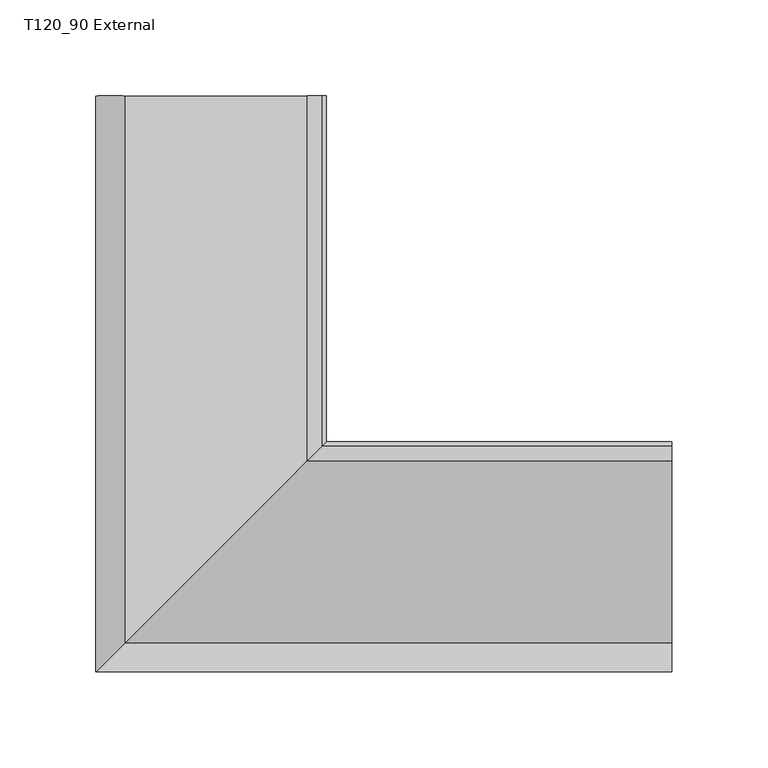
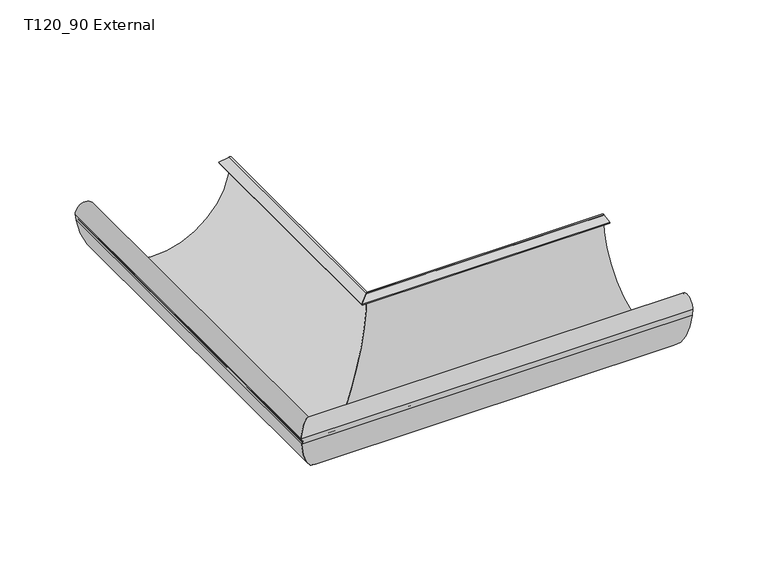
"""IFC4 building model written with IfcOpenShell, lengths in millimetres: proxy geometry, GROVIK_Gutter_Corner : T120_90 External."""

from ifc_helpers import new_model, si_unit, frame, origin, place, context, project, spatial, polyline, circle_curve, ellipse_curve, source, transform, mapped, element, save
from ifc_brep_helpers import plane_surface, cylinder_surface, revolved_surface, advanced_brep


def t120_90_external_180470e1(model_context):
    return source(origin(), model_context, "Body", "AdvancedBrep", [
        advanced_brep(
        [(0.0, 0.0, -1.8), (-2.2000746, -2.2000746, -0.0242687), (-9.9441961, -9.9441961, -1.4092855), (-9.7857475, -9.7857475, -2.295228), (-2.2975071, -2.2975071, -0.9559749), (-1.0040147, -1.0040147, -2.0579588), (-118.2672486, -118.2672486, -10.26861), (-119.0897552, -119.0897552, -5.3813466), (-116.9501607, -116.9501607, -9.9710741), (-117.4294315, -117.4294315, -8.9478528), (-117.995059, -117.995059, -5.4006666), (-118.8825779, -118.8825779, -5.5500325), (-118.3314375, -118.3314375, -9.0063664), (-117.5871118, -117.5871118, -10.6080252), (-119.995059, -119.995059, -5.2006666), (-119.2549128, -119.2549128, -10.4251966), (-119.2549128, 180.0, -10.4251966), (-119.995059, 180.0, -5.2006666), (-117.5871118, 180.0, -10.6080252), (-118.3314375, 180.0, -9.0063664), (-118.8825779, 180.0, -5.5500325), (-117.995059, 180.0, -5.4006666), (-117.4294315, 180.0, -8.9478528), (-116.9501607, 180.0, -9.9710741), (-119.0897552, 180.0, -5.3813466), (-118.2672486, 180.0, -10.26861), (-1.0040147, 180.0, -2.0579588), (-2.2975071, 180.0, -0.9559749), (-9.7857475, 180.0, -2.295228), (-9.9441961, 180.0, -1.4092855), (-2.2000746, 180.0, -0.0242687), (0.0, 180.0, -1.8)],
        [
            (0, 1, ellipse_curve(frame((-1.8973666, -1.8973666, -1.9), z_axis=(0.707106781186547, -0.7071067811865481, 0.0), x_axis=(0.7071067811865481, 0.7071067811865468, 0.0)), 2.6870058, 1.9)),
            (1, 2),
            (2, 3),
            (3, 4),
            (4, 5, ellipse_curve(frame((-2.1038477, -2.1038477, -2.0387934), z_axis=(-0.707106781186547, 0.7071067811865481, 0.0), x_axis=(-0.7071067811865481, -0.7071067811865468, 0.0)), 1.5556349, 1.1)),
            (5, 6, ellipse_curve(frame((-59.995059, -59.995059, -1.03), z_axis=(-0.707106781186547, 0.7071067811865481, 0.0), x_axis=(-0.7071067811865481, -0.7071067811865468, 0.0)), 83.4386002, 59.0)),
            (6, 7),
            (7, 8, ellipse_curve(frame((-112.495059, -112.495059, -5.1006666), z_axis=(-0.707106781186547, 0.7071067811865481, 0.0), x_axis=(-0.7071067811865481, -0.7071067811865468, 0.0)), 9.3347523, 6.6006666)),
            (8, 9, ellipse_curve(frame((-115.4100665, -115.4100665, -8.6258487), z_axis=(-0.707106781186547, 0.7071067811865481, 0.0), x_axis=(-0.7071067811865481, -0.7071067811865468, 0.0)), 2.8918925, 2.0448768)),
            (9, 10),
            (10, 11),
            (11, 12),
            (12, 13, ellipse_curve(frame((-115.141469, -115.141469, -8.4977001), z_axis=(0.707106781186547, -0.7071067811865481, 0.0), x_axis=(0.7071067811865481, 0.7071067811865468, 0.0)), 4.5682907, 3.2302694)),
            (13, 14, ellipse_curve(frame((-112.495059, -112.495059, -5.1006666), z_axis=(0.707106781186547, -0.7071067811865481, 0.0), x_axis=(0.7071067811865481, 0.7071067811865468, 0.0)), 10.6075445, 7.5006666)),
            (14, 15),
            (15, 0, ellipse_curve(frame((-59.995059, -59.995059, -1.03), z_axis=(0.707106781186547, -0.7071067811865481, 0.0), x_axis=(0.7071067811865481, 0.7071067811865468, 0.0)), 84.8528137, 60.0)),
            (16, 17),
            (17, 18, circle_curve(frame((-112.495059, 180.0, -5.1006666), z_axis=(0.0, 1.0, 0.0), x_axis=(-1.0, 0.0, 0.0)), 7.5006666)),
            (18, 19, circle_curve(frame((-115.141469, 180.0, -8.4977001), z_axis=(0.0, 1.0, 0.0), x_axis=(-1.0, 0.0, 0.0)), 3.2302694)),
            (19, 20),
            (20, 21),
            (21, 22),
            (22, 23, circle_curve(frame((-115.4100665, 180.0, -8.6258487), z_axis=(0.0, -1.0, 0.0), x_axis=(-1.0, 0.0, 0.0)), 2.0448768)),
            (23, 24, circle_curve(frame((-112.495059, 180.0, -5.1006666), z_axis=(0.0, -1.0, 0.0), x_axis=(-1.0, 0.0, 0.0)), 6.6006666)),
            (24, 25),
            (25, 26, circle_curve(frame((-59.995059, 180.0, -1.03), z_axis=(0.0, -1.0, 0.0), x_axis=(-1.0, 0.0, 0.0)), 59.0)),
            (26, 27, circle_curve(frame((-2.1038477, 180.0, -2.0387934), z_axis=(0.0, -1.0, 0.0), x_axis=(-1.0, 0.0, 0.0)), 1.1)),
            (27, 28),
            (28, 29),
            (29, 30),
            (30, 31, circle_curve(frame((-1.8973666, 180.0, -1.9), z_axis=(0.0, 1.0, 0.0), x_axis=(-1.0, 0.0, 0.0)), 1.9)),
            (31, 16, circle_curve(frame((-59.995059, 180.0, -1.03), z_axis=(0.0, 1.0, 0.0), x_axis=(-1.0, 0.0, 0.0)), 60.0)),
            (31, 0),
            (15, 16),
            (30, 1),
            (29, 2),
            (28, 3),
            (27, 4),
            (26, 5),
            (25, 6),
            (24, 7),
            (23, 8),
            (22, 9),
            (21, 10),
            (20, 11),
            (19, 12),
            (18, 13),
            (17, 14),
        ],
        [
            plane_surface(frame((-200.0, -200.0, 250.0), z_axis=(0.707106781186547, -0.7071067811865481, 0.0), x_axis=(0.0, 0.0, -1.0))),
            plane_surface(frame((0.0, 180.0, 0.0), z_axis=(0.0, 1.0, 0.0), x_axis=(0.0, 0.0, 1.0))),
            cylinder_surface(frame((-59.995059, 180.0, -1.03), z_axis=(0.0, 1.0, 0.0), x_axis=(-1.0, 0.0, 0.0)), 60.0),
            cylinder_surface(frame((-1.8973666, 180.0, -1.9), z_axis=(0.0, 1.0, 0.0), x_axis=(-1.0, 0.0, 0.0)), 1.9),
            plane_surface(frame((-2.2000746, 180.0, -0.0242687), z_axis=(-0.17605399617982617, 0.0, 0.9843805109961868), x_axis=(0.0, -1.0, 0.0))),
            plane_surface(frame((-9.9441961, 180.0, -1.4092855), z_axis=(-0.9843805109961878, 0.0, -0.1760539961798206), x_axis=(0.0, -1.0, 0.0))),
            plane_surface(frame((-9.7857475, 180.0, -2.295228), z_axis=(0.17605399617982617, 0.0, -0.9843805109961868), x_axis=(0.0, -1.0, 0.0))),
            revolved_surface(polyline([(-3.2038477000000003, -3.2038476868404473, -2.0387934), (-3.2038477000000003, 180.0, -2.0387934)]), (-2.1038477, 180.0, -2.0387934), (0.0, -1.0, 0.0)),
            revolved_surface(polyline([(-118.995059, -118.99505901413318, -1.03), (-118.995059, 180.0, -1.03)]), (-59.995059, 180.0, -1.03), (0.0, -1.0, 0.0)),
            plane_surface(frame((-118.2672486, 180.0, -10.26861), z_axis=(0.9861321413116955, 0.0, 0.16596204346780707), x_axis=(0.0, -1.0, 0.0))),
            revolved_surface(polyline([(-119.0957256, -119.09572565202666, -5.1006666), (-119.0957256, 180.0, -5.1006666)]), (-112.495059, 180.0, -5.1006666), (0.0, -1.0, 0.0)),
            revolved_surface(polyline([(-117.4549433, -117.45494329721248, -8.6258487), (-117.4549433, 180.0, -8.6258487)]), (-115.4100665, 180.0, -8.6258487), (0.0, -1.0, 0.0)),
            plane_surface(frame((-117.4294315, 180.0, -8.9478528), z_axis=(0.9875239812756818, 0.0, 0.1574686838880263), x_axis=(0.0, -1.0, 0.0))),
            plane_surface(frame((-117.995059, 180.0, -5.4006666), z_axis=(-0.1659620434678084, 0.0, 0.9861321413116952), x_axis=(0.0, -1.0, 0.0))),
            plane_surface(frame((-118.8825779, 180.0, -5.5500325), z_axis=(-0.9875239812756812, 0.0, -0.15746868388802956), x_axis=(0.0, -1.0, 0.0))),
            cylinder_surface(frame((-115.141469, 180.0, -8.4977001), z_axis=(0.0, 1.0, 0.0), x_axis=(-1.0, 0.0, 0.0)), 3.2302694),
            cylinder_surface(frame((-112.495059, 180.0, -5.1006666), z_axis=(0.0, 1.0, 0.0), x_axis=(-1.0, 0.0, 0.0)), 7.5006666),
            plane_surface(frame((-119.995059, 180.0, -5.2006666), z_axis=(-0.9901137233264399, 0.0, -0.14026694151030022), x_axis=(0.0, -1.0, 0.0))),
        ],
        [
            (0, [[1, 2, 3, 4, 5, 6, 7, 8, 9, 10, 11, 12, 13, 14, 15, 16]]),
            (1, [[17, 18, 19, 20, 21, 22, 23, 24, 25, 26, 27, 28, 29, 30, 31, 32]]),
            (2, [[33, -16, 34, -32]]),
            (3, [[35, -1, -33, -31]]),
            (4, [[36, -2, -35, -30]]),
            (5, [[37, -3, -36, -29]]),
            (6, [[38, -4, -37, -28]]),
            (7, [[39, -5, -38, -27]]),
            (8, [[40, -6, -39, -26]]),
            (9, [[41, -7, -40, -25]]),
            (10, [[42, -8, -41, -24]]),
            (11, [[43, -9, -42, -23]]),
            (12, [[44, -10, -43, -22]]),
            (13, [[45, -11, -44, -21]]),
            (14, [[46, -12, -45, -20]]),
            (15, [[47, -13, -46, -19]]),
            (16, [[48, -14, -47, -18]]),
            (17, [[-34, -15, -48, -17]]),
        ],
    ),
        advanced_brep(
        [(180.0, -119.2549128, -10.4251966), (180.0, 0.0, -1.8), (180.0, -2.2000746, -0.0242687), (180.0, -9.9441961, -1.4092855), (180.0, -9.7857475, -2.295228), (180.0, -2.2975071, -0.9559749), (180.0, -1.0040147, -2.0579588), (180.0, -118.2672486, -10.26861), (180.0, -119.0897552, -5.3813466), (180.0, -116.9501607, -9.9710741), (180.0, -117.4294315, -8.9478528), (180.0, -117.995059, -5.4006666), (180.0, -118.8825779, -5.5500325), (180.0, -118.3314375, -9.0063664), (180.0, -117.5871118, -10.6080252), (180.0, -119.995059, -5.2006666), (-119.2549128, -119.2549128, -10.4251966), (0.0, 0.0, -1.8), (-2.2000746, -2.2000746, -0.0242687), (-9.9441961, -9.9441961, -1.4092855), (-9.7857475, -9.7857475, -2.295228), (-2.2975071, -2.2975071, -0.9559749), (-1.0040147, -1.0040147, -2.0579588), (-118.2672486, -118.2672486, -10.26861), (-119.0897552, -119.0897552, -5.3813466), (-116.9501607, -116.9501607, -9.9710741), (-117.4294315, -117.4294315, -8.9478528), (-117.995059, -117.995059, -5.4006666), (-118.8825779, -118.8825779, -5.5500325), (-118.3314375, -118.3314375, -9.0063664), (-117.5871118, -117.5871118, -10.6080252), (-119.995059, -119.995059, -5.2006666)],
        [
            (0, 1, circle_curve(frame((180.0, -59.995059, -1.03), z_axis=(1.0, 0.0, 0.0), x_axis=(0.0, -1.0, 0.0)), 60.0)),
            (1, 2, circle_curve(frame((180.0, -1.8973666, -1.9), z_axis=(1.0, 0.0, 0.0), x_axis=(0.0, -1.0, 0.0)), 1.9)),
            (2, 3),
            (3, 4),
            (4, 5),
            (5, 6, circle_curve(frame((180.0, -2.1038477, -2.0387934), z_axis=(-1.0, 0.0, 0.0), x_axis=(0.0, -1.0, 0.0)), 1.1)),
            (6, 7, circle_curve(frame((180.0, -59.995059, -1.03), z_axis=(-1.0, 0.0, 0.0), x_axis=(0.0, -1.0, 0.0)), 59.0)),
            (7, 8),
            (8, 9, circle_curve(frame((180.0, -112.495059, -5.1006666), z_axis=(-1.0, 0.0, 0.0), x_axis=(0.0, -1.0, 0.0)), 6.6006666)),
            (9, 10, circle_curve(frame((180.0, -115.4100665, -8.6258487), z_axis=(-1.0, 0.0, 0.0), x_axis=(0.0, -1.0, 0.0)), 2.0448768)),
            (10, 11),
            (11, 12),
            (12, 13),
            (13, 14, circle_curve(frame((180.0, -115.141469, -8.4977001), z_axis=(1.0, 0.0, 0.0), x_axis=(0.0, -1.0, 0.0)), 3.2302694)),
            (14, 15, circle_curve(frame((180.0, -112.495059, -5.1006666), z_axis=(1.0, 0.0, 0.0), x_axis=(0.0, -1.0, 0.0)), 7.5006666)),
            (15, 0),
            (0, 16),
            (16, 17, ellipse_curve(frame((-59.995059, -59.995059, -1.03), z_axis=(0.707106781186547, -0.7071067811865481, 0.0), x_axis=(0.7071067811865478, 0.707106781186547, 0.0)), 84.8528137, 60.0)),
            (17, 1),
            (17, 18, ellipse_curve(frame((-1.8973666, -1.8973666, -1.9), z_axis=(0.707106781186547, -0.7071067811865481, 0.0), x_axis=(0.7071067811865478, 0.707106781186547, 0.0)), 2.6870058, 1.9)),
            (18, 2),
            (18, 19),
            (19, 3),
            (19, 20),
            (20, 4),
            (20, 21),
            (21, 5),
            (21, 22, ellipse_curve(frame((-2.1038477, -2.1038477, -2.0387934), z_axis=(-0.707106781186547, 0.7071067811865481, 0.0), x_axis=(-0.7071067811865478, -0.707106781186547, 0.0)), 1.5556349, 1.1)),
            (22, 6),
            (22, 23, ellipse_curve(frame((-59.995059, -59.995059, -1.03), z_axis=(-0.707106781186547, 0.7071067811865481, 0.0), x_axis=(-0.7071067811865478, -0.707106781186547, 0.0)), 83.4386002, 59.0)),
            (23, 7),
            (23, 24),
            (24, 8),
            (24, 25, ellipse_curve(frame((-112.495059, -112.495059, -5.1006666), z_axis=(-0.707106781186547, 0.7071067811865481, 0.0), x_axis=(-0.7071067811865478, -0.707106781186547, 0.0)), 9.3347523, 6.6006666)),
            (25, 9),
            (25, 26, ellipse_curve(frame((-115.4100665, -115.4100665, -8.6258487), z_axis=(-0.707106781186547, 0.7071067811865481, 0.0), x_axis=(-0.7071067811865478, -0.707106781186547, 0.0)), 2.8918925, 2.0448768)),
            (26, 10),
            (26, 27),
            (27, 11),
            (27, 28),
            (28, 12),
            (28, 29),
            (29, 13),
            (29, 30, ellipse_curve(frame((-115.141469, -115.141469, -8.4977001), z_axis=(0.707106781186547, -0.7071067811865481, 0.0), x_axis=(0.7071067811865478, 0.707106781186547, 0.0)), 4.5682907, 3.2302694)),
            (30, 14),
            (30, 31, ellipse_curve(frame((-112.495059, -112.495059, -5.1006666), z_axis=(0.707106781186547, -0.7071067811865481, 0.0), x_axis=(0.7071067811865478, 0.707106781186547, 0.0)), 10.6075445, 7.5006666)),
            (31, 15),
            (31, 16),
        ],
        [
            plane_surface(frame((180.0, 0.0, 0.0), z_axis=(1.0, 0.0, 0.0), x_axis=(0.0, 0.0, 1.0))),
            cylinder_surface(frame((180.0, -59.995059, -1.03), z_axis=(1.0, 0.0, 0.0), x_axis=(0.0, -1.0, 0.0)), 60.0),
            cylinder_surface(frame((180.0, -1.8973666, -1.9), z_axis=(1.0, 0.0, 0.0), x_axis=(0.0, -1.0, 0.0)), 1.9),
            plane_surface(frame((180.0, -2.2000746, -0.0242687), z_axis=(0.0, -0.17605399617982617, 0.9843805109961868), x_axis=(-1.0, 0.0, 0.0))),
            plane_surface(frame((180.0, -9.9441961, -1.4092855), z_axis=(0.0, -0.9843805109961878, -0.1760539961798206), x_axis=(-1.0, 0.0, 0.0))),
            plane_surface(frame((180.0, -9.7857475, -2.295228), z_axis=(0.0, 0.17605399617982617, -0.9843805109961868), x_axis=(-1.0, 0.0, 0.0))),
            revolved_surface(polyline([(-3.2038476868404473, -3.2038477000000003, -2.0387934), (180.0, -3.2038477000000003, -2.0387934)]), (180.0, -2.1038477, -2.0387934), (-1.0, 0.0, 0.0)),
            revolved_surface(polyline([(-118.99505901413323, -118.995059, -1.03), (180.0, -118.995059, -1.03)]), (180.0, -59.995059, -1.03), (-1.0, 0.0, 0.0)),
            plane_surface(frame((180.0, -118.2672486, -10.26861), z_axis=(0.0, 0.9861321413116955, 0.16596204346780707), x_axis=(-1.0, 0.0, 0.0))),
            revolved_surface(polyline([(-119.09572565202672, -119.0957256, -5.1006666), (180.0, -119.0957256, -5.1006666)]), (180.0, -112.495059, -5.1006666), (-1.0, 0.0, 0.0)),
            revolved_surface(polyline([(-117.45494329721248, -117.4549433, -8.6258487), (180.0, -117.4549433, -8.6258487)]), (180.0, -115.4100665, -8.6258487), (-1.0, 0.0, 0.0)),
            plane_surface(frame((180.0, -117.4294315, -8.9478528), z_axis=(0.0, 0.9875239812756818, 0.1574686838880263), x_axis=(-1.0, 0.0, 0.0))),
            plane_surface(frame((180.0, -117.995059, -5.4006666), z_axis=(0.0, -0.1659620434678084, 0.9861321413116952), x_axis=(-1.0, 0.0, 0.0))),
            plane_surface(frame((180.0, -118.8825779, -5.5500325), z_axis=(0.0, -0.9875239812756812, -0.15746868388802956), x_axis=(-1.0, 0.0, 0.0))),
            cylinder_surface(frame((180.0, -115.141469, -8.4977001), z_axis=(1.0, 0.0, 0.0), x_axis=(0.0, -1.0, 0.0)), 3.2302694),
            cylinder_surface(frame((180.0, -112.495059, -5.1006666), z_axis=(1.0, 0.0, 0.0), x_axis=(0.0, -1.0, 0.0)), 7.5006666),
            plane_surface(frame((180.0, -119.995059, -5.2006666), z_axis=(0.0, -0.9901137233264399, -0.14026694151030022), x_axis=(-1.0, 0.0, 0.0))),
            plane_surface(frame((-200.0, -200.0, 250.0), z_axis=(-0.707106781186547, 0.7071067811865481, 0.0), x_axis=(0.0, 0.0, -1.0))),
        ],
        [
            (0, [[1, 2, 3, 4, 5, 6, 7, 8, 9, 10, 11, 12, 13, 14, 15, 16]]),
            (1, [[-1, 17, 18, 19]]),
            (2, [[-2, -19, 20, 21]]),
            (3, [[-3, -21, 22, 23]]),
            (4, [[-4, -23, 24, 25]]),
            (5, [[-5, -25, 26, 27]]),
            (6, [[-6, -27, 28, 29]]),
            (7, [[-7, -29, 30, 31]]),
            (8, [[-8, -31, 32, 33]]),
            (9, [[-9, -33, 34, 35]]),
            (10, [[-10, -35, 36, 37]]),
            (11, [[-11, -37, 38, 39]]),
            (12, [[-12, -39, 40, 41]]),
            (13, [[-13, -41, 42, 43]]),
            (14, [[-14, -43, 44, 45]]),
            (15, [[-15, -45, 46, 47]]),
            (16, [[-16, -47, 48, -17]]),
            (17, [[-18, -48, -46, -44, -42, -40, -38, -36, -34, -32, -30, -28, -26, -24, -22, -20]]),
        ],
    ),
    ])


if __name__ == "__main__":
    model = new_model("IFC4")
    model_context = context("Model", 3, world=origin())
    ifc_project = project(units=[si_unit("LENGTHUNIT", "METRE", prefix="MILLI")], contexts=[model_context])
    site = spatial("IfcSite", under=ifc_project)
    building = spatial("IfcBuilding", under=site)
    placement = place(None, origin())
    t120_90_external_shape = t120_90_external_180470e1(model_context)
    element("IfcBuildingElementProxy", 1, Name="GROVIK_Gutter_Corner : T120_90 External", ObjectType="GROVIK_Gutter_Corner : T120_90 External", at=placement, inside=building, context=model_context, shape_type="MappedRepresentation", body=[
        mapped(t120_90_external_shape, transform((0.0, 0.0, 0.0), x_axis=(1.0, 0.0, 0.0), y_axis=(0.0, 1.0, 0.0), z_axis=(0.0, 0.0, 1.0))),
    ])
    save(model, "model.ifc")
